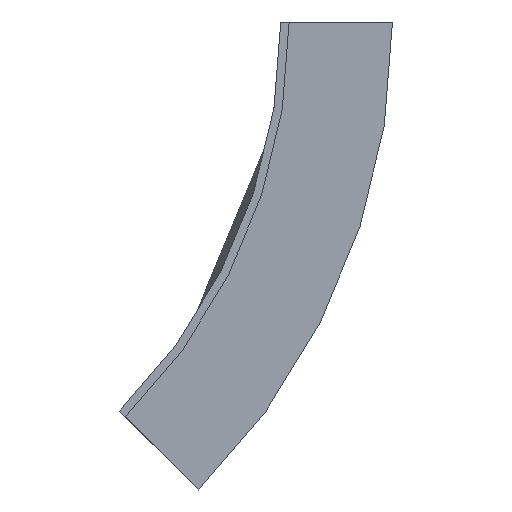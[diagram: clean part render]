
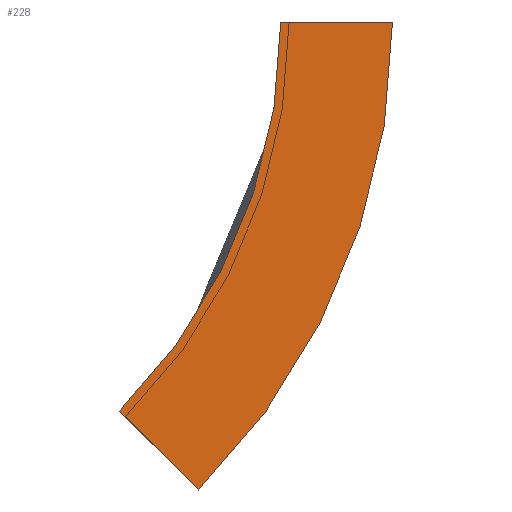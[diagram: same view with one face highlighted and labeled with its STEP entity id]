
A CAD part, left-side view. The second image highlights one B-rep face of the part: STEP entity #228.
In plain terms, the highlighted planar face has unit normal (-1, 0, 0).
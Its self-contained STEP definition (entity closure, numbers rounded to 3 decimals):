
#25 = VECTOR ( 'NONE', #498, 1000. ) ;
#27 = DIRECTION ( 'NONE',  ( 1., 0., 0. ) ) ;
#60 = ORIENTED_EDGE ( 'NONE', *, *, #271, .F. ) ;
#82 = AXIS2_PLACEMENT_3D ( 'NONE', #512, #253, #434 ) ;
#87 = VERTEX_POINT ( 'NONE', #443 ) ;
#99 = VERTEX_POINT ( 'NONE', #446 ) ;
#100 = FACE_OUTER_BOUND ( 'NONE', #321, .T. ) ;
#134 = CIRCLE ( 'NONE', #465, 98.5 ) ;
#136 = DIRECTION ( 'NONE',  ( 0., 0.707, 0.707 ) ) ;
#146 = ORIENTED_EDGE ( 'NONE', *, *, #357, .F. ) ;
#149 = EDGE_CURVE ( 'NONE', #525, #245, #324, .T. ) ;
#174 = CARTESIAN_POINT ( 'NONE',  ( -303.5, 98.5, 0. ) ) ;
#196 = VECTOR ( 'NONE', #136, 1000. ) ;
#228 = ADVANCED_FACE ( 'NONE', ( #100 ), #479, .T. ) ;
#245 = VERTEX_POINT ( 'NONE', #323 ) ;
#253 = DIRECTION ( 'NONE',  ( -1., 0., 0. ) ) ;
#269 = DIRECTION ( 'NONE',  ( 0., 0., -1. ) ) ;
#271 = EDGE_CURVE ( 'NONE', #99, #87, #317, .T. ) ;
#274 = CIRCLE ( 'NONE', #582, 118.5 ) ;
#288 = ORIENTED_EDGE ( 'NONE', *, *, #149, .F. ) ;
#317 = LINE ( 'NONE', #362, #25 ) ;
#321 = EDGE_LOOP ( 'NONE', ( #288, #146, #60, #566 ) ) ;
#323 = CARTESIAN_POINT ( 'NONE',  ( -303.5, 28.85, -69.65 ) ) ;
#324 = LINE ( 'NONE', #331, #196 ) ;
#331 = CARTESIAN_POINT ( 'NONE',  ( -303.5, 14.708, -83.792 ) ) ;
#357 = EDGE_CURVE ( 'NONE', #87, #525, #274, .T. ) ;
#362 = CARTESIAN_POINT ( 'NONE',  ( -303.5, 0., 0. ) ) ;
#434 = DIRECTION ( 'NONE',  ( 0., 0., 1. ) ) ;
#443 = CARTESIAN_POINT ( 'NONE',  ( -303.5, -20., 0. ) ) ;
#446 = CARTESIAN_POINT ( 'NONE',  ( -303.5, 0., 0. ) ) ;
#465 = AXIS2_PLACEMENT_3D ( 'NONE', #476, #564, #576 ) ;
#476 = CARTESIAN_POINT ( 'NONE',  ( -303.5, 98.5, 0. ) ) ;
#479 = PLANE ( 'NONE',  #82 ) ;
#487 = CARTESIAN_POINT ( 'NONE',  ( -303.5, 14.708, -83.792 ) ) ;
#498 = DIRECTION ( 'NONE',  ( 0., -1., 0. ) ) ;
#512 = CARTESIAN_POINT ( 'NONE',  ( -303.5, 98.5, 0. ) ) ;
#525 = VERTEX_POINT ( 'NONE', #487 ) ;
#564 = DIRECTION ( 'NONE',  ( -1., 0., 0. ) ) ;
#566 = ORIENTED_EDGE ( 'NONE', *, *, #588, .F. ) ;
#576 = DIRECTION ( 'NONE',  ( 0., 0., 1. ) ) ;
#582 = AXIS2_PLACEMENT_3D ( 'NONE', #174, #27, #269 ) ;
#588 = EDGE_CURVE ( 'NONE', #245, #99, #134, .T. ) ;
